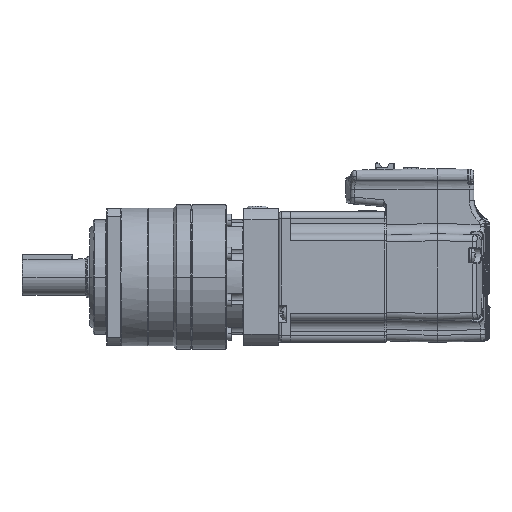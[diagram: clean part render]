
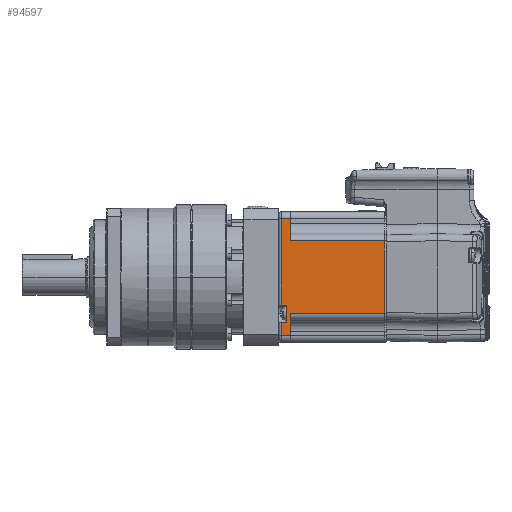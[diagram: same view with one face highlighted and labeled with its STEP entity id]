
A CAD part, left-side view. The second image highlights one B-rep face of the part: STEP entity #94597.
In plain terms, the highlighted planar face has unit normal (-1, 0, 0).
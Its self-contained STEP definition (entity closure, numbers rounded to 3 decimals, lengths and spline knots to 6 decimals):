
#53330 = ORIENTED_EDGE ( 'NONE', *, *, #130181, .F. ) ;
#53332 = ORIENTED_EDGE ( 'NONE', *, *, #130182, .T. ) ;
#53334 = ORIENTED_EDGE ( 'NONE', *, *, #130257, .T. ) ;
#53335 = ORIENTED_EDGE ( 'NONE', *, *, #130251, .T. ) ;
#53337 = ORIENTED_EDGE ( 'NONE', *, *, #130248, .T. ) ;
#53339 = ORIENTED_EDGE ( 'NONE', *, *, #130246, .T. ) ;
#53341 = ORIENTED_EDGE ( 'NONE', *, *, #130244, .T. ) ;
#53342 = ORIENTED_EDGE ( 'NONE', *, *, #130242, .T. ) ;
#53344 = ORIENTED_EDGE ( 'NONE', *, *, #130241, .T. ) ;
#53346 = ORIENTED_EDGE ( 'NONE', *, *, #130238, .T. ) ;
#53348 = ORIENTED_EDGE ( 'NONE', *, *, #130237, .T. ) ;
#53350 = ORIENTED_EDGE ( 'NONE', *, *, #130180, .F. ) ;
#94597 = ADVANCED_FACE ( 'NONE', ( #96181 ), #138984, .T. ) ;
#96181 = FACE_OUTER_BOUND ( 'NONE', #119533, .T. ) ;
#111039 = AXIS2_PLACEMENT_3D ( 'NONE', #138974, #138990, #138991 ) ;
#119533 = EDGE_LOOP ( 'NONE', ( #53330, #53332, #53334, #53335, #53337, #53339, #53341, #53342, #53344, #53346, #53348, #53350 ) ) ;
#130180 = EDGE_CURVE ( 'NONE', #148047, #147958, #152967, .T. ) ;
#130181 = EDGE_CURVE ( 'NONE', #148021, #148047, #152958, .T. ) ;
#130182 = EDGE_CURVE ( 'NONE', #148021, #147926, #152973, .T. ) ;
#130237 = EDGE_CURVE ( 'NONE', #147961, #147958, #153241, .T. ) ;
#130238 = EDGE_CURVE ( 'NONE', #147815, #147961, #153248, .T. ) ;
#130241 = EDGE_CURVE ( 'NONE', #147948, #147815, #153269, .T. ) ;
#130242 = EDGE_CURVE ( 'NONE', #147929, #147948, #153277, .T. ) ;
#130244 = EDGE_CURVE ( 'NONE', #147939, #147929, #153224, .T. ) ;
#130246 = EDGE_CURVE ( 'NONE', #147936, #147939, #153294, .T. ) ;
#130248 = EDGE_CURVE ( 'NONE', #147768, #147936, #153306, .T. ) ;
#130251 = EDGE_CURVE ( 'NONE', #147923, #147768, #153342, .T. ) ;
#130257 = EDGE_CURVE ( 'NONE', #147926, #147923, #153383, .T. ) ;
#138974 = CARTESIAN_POINT ( 'NONE',  ( -0.0285, 0.0071, -0.0285 ) ) ;
#138984 = PLANE ( 'NONE',  #111039 ) ;
#138990 = DIRECTION ( 'NONE',  ( -1., 0., 0. ) ) ;
#138991 = DIRECTION ( 'NONE',  ( 0., 0., 1. ) ) ;
#147768 = VERTEX_POINT ( 'NONE', #164292 ) ;
#147815 = VERTEX_POINT ( 'NONE', #164307 ) ;
#147923 = VERTEX_POINT ( 'NONE', #164341 ) ;
#147926 = VERTEX_POINT ( 'NONE', #164342 ) ;
#147929 = VERTEX_POINT ( 'NONE', #164343 ) ;
#147936 = VERTEX_POINT ( 'NONE', #164345 ) ;
#147939 = VERTEX_POINT ( 'NONE', #164346 ) ;
#147948 = VERTEX_POINT ( 'NONE', #164349 ) ;
#147958 = VERTEX_POINT ( 'NONE', #164352 ) ;
#147961 = VERTEX_POINT ( 'NONE', #164353 ) ;
#148021 = VERTEX_POINT ( 'NONE', #164372 ) ;
#148047 = VERTEX_POINT ( 'NONE', #164380 ) ;
#152958 = LINE ( 'NONE', #157637, #152975 ) ;
#152967 = LINE ( 'NONE', #157634, #152971 ) ;
#152971 = VECTOR ( 'NONE', #157628, 1. ) ;
#152973 = LINE ( 'NONE', #157643, #152979 ) ;
#152975 = VECTOR ( 'NONE', #157642, 1. ) ;
#152979 = VECTOR ( 'NONE', #157645, 1. ) ;
#153224 = LINE ( 'NONE', #157869, #153302 ) ;
#153241 = LINE ( 'NONE', #157841, #153253 ) ;
#153248 = LINE ( 'NONE', #157845, #153261 ) ;
#153253 = VECTOR ( 'NONE', #157844, 1. ) ;
#153261 = VECTOR ( 'NONE', #157847, 1. ) ;
#153269 = LINE ( 'NONE', #157858, #153281 ) ;
#153277 = LINE ( 'NONE', #157862, #153290 ) ;
#153281 = VECTOR ( 'NONE', #157860, 1. ) ;
#153290 = VECTOR ( 'NONE', #157864, 1. ) ;
#153294 = LINE ( 'NONE', #157866, #153318 ) ;
#153302 = VECTOR ( 'NONE', #157850, 1. ) ;
#153306 = LINE ( 'NONE', #157868, #153334 ) ;
#153318 = VECTOR ( 'NONE', #157880, 1. ) ;
#153334 = VECTOR ( 'NONE', #157888, 1. ) ;
#153342 = LINE ( 'NONE', #157901, #153354 ) ;
#153354 = VECTOR ( 'NONE', #157903, 1. ) ;
#153383 = LINE ( 'NONE', #157916, #153391 ) ;
#153391 = VECTOR ( 'NONE', #157914, 1. ) ;
#157628 = DIRECTION ( 'NONE',  ( 0., 1., 0. ) ) ;
#157634 = CARTESIAN_POINT ( 'NONE',  ( -0.0285, 0.0491, -0.01577 ) ) ;
#157637 = CARTESIAN_POINT ( 'NONE',  ( -0.0285, 0.0081, -0.0285 ) ) ;
#157642 = DIRECTION ( 'NONE',  ( 0., 0., -1. ) ) ;
#157643 = CARTESIAN_POINT ( 'NONE',  ( -0.0285, 0.0071, 0.01577 ) ) ;
#157645 = DIRECTION ( 'NONE',  ( 0., 1., 0. ) ) ;
#157841 = CARTESIAN_POINT ( 'NONE',  ( -0.0285, 0.0491, -0.0285 ) ) ;
#157844 = DIRECTION ( 'NONE',  ( 0., 0., 1. ) ) ;
#157845 = CARTESIAN_POINT ( 'NONE',  ( -0.0285, 0.0071, -0.0255 ) ) ;
#157847 = DIRECTION ( 'NONE',  ( 0., -1., 0. ) ) ;
#157850 = DIRECTION ( 'NONE',  ( 0., 0., -1. ) ) ;
#157858 = CARTESIAN_POINT ( 'NONE',  ( -0.0285, 0.0531, -0.0285 ) ) ;
#157860 = DIRECTION ( 'NONE',  ( 0., 0., -1. ) ) ;
#157862 = CARTESIAN_POINT ( 'NONE',  ( -0.0285, 0.0071, -0.0196 ) ) ;
#157864 = DIRECTION ( 'NONE',  ( 0., 1., 0. ) ) ;
#157866 = CARTESIAN_POINT ( 'NONE',  ( -0.0285, 0.0071, -0.0122 ) ) ;
#157868 = CARTESIAN_POINT ( 'NONE',  ( -0.0285, 0.0531, -0.0285 ) ) ;
#157869 = CARTESIAN_POINT ( 'NONE',  ( -0.0285, 0.0506, -0.0285 ) ) ;
#157880 = DIRECTION ( 'NONE',  ( 0., -1., 0. ) ) ;
#157888 = DIRECTION ( 'NONE',  ( 0., 0., -1. ) ) ;
#157901 = CARTESIAN_POINT ( 'NONE',  ( -0.0285, 0.0071, 0.0255 ) ) ;
#157903 = DIRECTION ( 'NONE',  ( 0., 1., 0. ) ) ;
#157914 = DIRECTION ( 'NONE',  ( 0., 0., 1. ) ) ;
#157916 = CARTESIAN_POINT ( 'NONE',  ( -0.0285, 0.0491, -0.0285 ) ) ;
#164292 = CARTESIAN_POINT ( 'NONE',  ( -0.0285, 0.0531, 0.0255 ) ) ;
#164307 = CARTESIAN_POINT ( 'NONE',  ( -0.0285, 0.0531, -0.0255 ) ) ;
#164341 = CARTESIAN_POINT ( 'NONE',  ( -0.0285, 0.0491, 0.0255 ) ) ;
#164342 = CARTESIAN_POINT ( 'NONE',  ( -0.0285, 0.0491, 0.01577 ) ) ;
#164343 = CARTESIAN_POINT ( 'NONE',  ( -0.0285, 0.0506, -0.0196 ) ) ;
#164345 = CARTESIAN_POINT ( 'NONE',  ( -0.0285, 0.0531, -0.0122 ) ) ;
#164346 = CARTESIAN_POINT ( 'NONE',  ( -0.0285, 0.0506, -0.0122 ) ) ;
#164349 = CARTESIAN_POINT ( 'NONE',  ( -0.0285, 0.0531, -0.0196 ) ) ;
#164352 = CARTESIAN_POINT ( 'NONE',  ( -0.0285, 0.0491, -0.01577 ) ) ;
#164353 = CARTESIAN_POINT ( 'NONE',  ( -0.0285, 0.0491, -0.0255 ) ) ;
#164372 = CARTESIAN_POINT ( 'NONE',  ( -0.0285, 0.0081, 0.01577 ) ) ;
#164380 = CARTESIAN_POINT ( 'NONE',  ( -0.0285, 0.0081, -0.01577 ) ) ;
